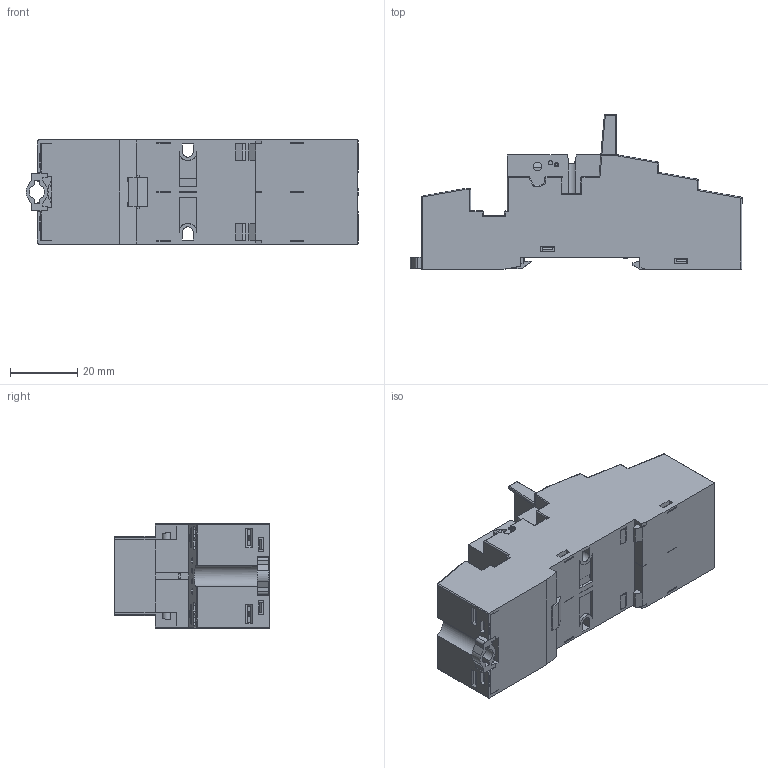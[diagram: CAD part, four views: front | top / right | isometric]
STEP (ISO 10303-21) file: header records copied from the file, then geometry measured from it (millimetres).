
FILE_DESCRIPTION(/* description */ (''),/* implementation_level */ '2;1');
FILE_NAME(/* name */ 'C:\Desktop\FIERA\94.P3\94.P3.stp',/* time_stamp */ '2015-03-06T12:28:06+01:00',/* author */ ('marco'),/* organization */ (''),/* preprocessor_version */ 'ST-DEVELOPER v15.6',/* originating_system */ 'Autodesk Inventor 2015',/* authorisation */ '');
FILE_SCHEMA (('AUTOMOTIVE_DESIGN { 1 0 10303 214 3 1 1 }'));
Products named in the file (1): Assieme 94.P3
Bounding box: 98.9 x 46 x 31 mm (x, y, z)
Volume: 63820.3 mm3; surface area: 34419.9 mm2
Topology: 1 solids, 6 shells, 3610 faces, 9771 edges, 6197 vertices
Faces by surface type: plane 2740, cylinder 630, torus 96, cone 90, sphere 30, bspline 24
Full cylindrical faces by diameter (mm): 1.2 x6, 2.2 x11, 2.5 x2
Entity records: 115985 total; most frequent: CARTESIAN_POINT 20910, ORIENTED_EDGE 19496, DIRECTION 18173, EDGE_CURVE 9744, LINE 8169, VECTOR 8169, VERTEX_POINT 6192, AXIS2_PLACEMENT_3D 5002
